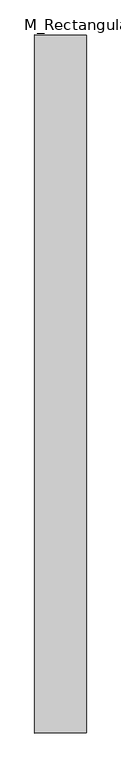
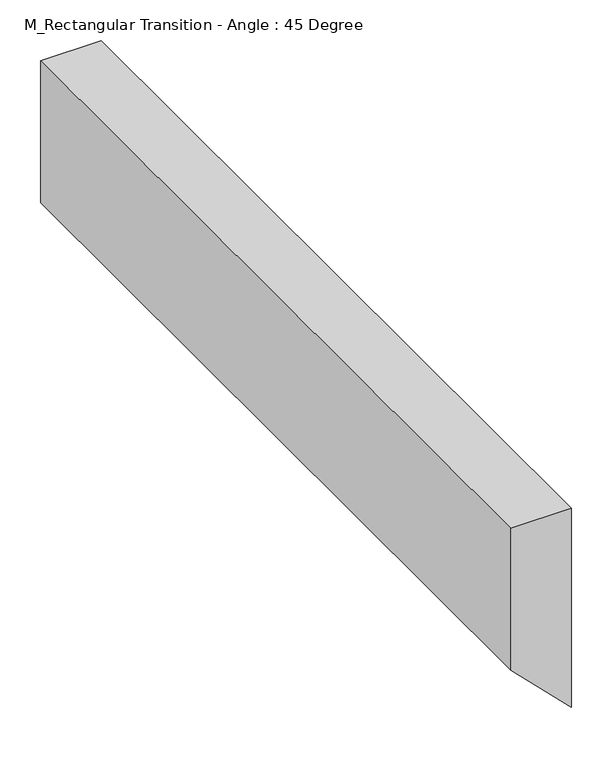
"""IFC4 building model written with IfcOpenShell, lengths in millimetres: duct fitting geometry, M_Rectangular Transition - Angle : 45 Degree."""

from ifc_helpers import new_model, si_unit, origin, place, context, project, spatial, faceted_brep, source, transform, mapped, element, save


def m_rectangular_transition_angle_45_degree_83bbb609(model_context):
    return source(origin(), model_context, "Body", "Brep", [
        faceted_brep([(86.0, -580.5, 107.0), (86.0, -580.5, -193.0), (86.0, 580.5, -193.0), (86.0, 580.5, 107.0), (0.0, -581.0, 107.0), (0.0, 581.0, 107.0), (0.0, 581.0, -107.0), (0.0, -581.0, -107.0)], [[[0, 1, 2, 3]], [[4, 5, 6, 7]], [[4, 7, 1, 0]], [[7, 6, 2, 1]], [[6, 5, 3, 2]], [[5, 4, 0, 3]]]),
    ])


if __name__ == "__main__":
    model = new_model("IFC4")
    model_context = context("Model", 3, world=origin())
    ifc_project = project(units=[si_unit("LENGTHUNIT", "METRE", prefix="MILLI")], contexts=[model_context])
    site = spatial("IfcSite", under=ifc_project)
    building = spatial("IfcBuilding", under=site)
    placement = place(None, origin())
    m_rectangular_transition_angle_45_degree_shape = m_rectangular_transition_angle_45_degree_83bbb609(model_context)
    element("IfcDuctFitting", 1, ObjectType="M_Rectangular Transition - Angle : 45 Degree", at=placement, inside=building, context=model_context, shape_type="MappedRepresentation", body=[
        mapped(m_rectangular_transition_angle_45_degree_shape, transform((0.0, 0.0, 0.0), x_axis=(1.0, 0.0, 0.0), y_axis=(0.0, 1.0, 0.0), z_axis=(0.0, 0.0, 1.0))),
    ])
    save(model, "model.ifc")
